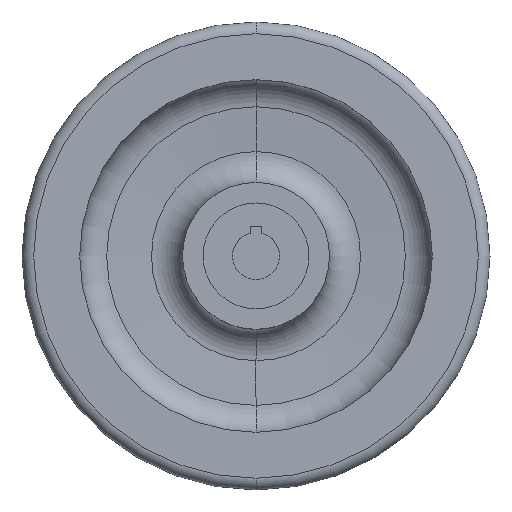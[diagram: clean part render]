
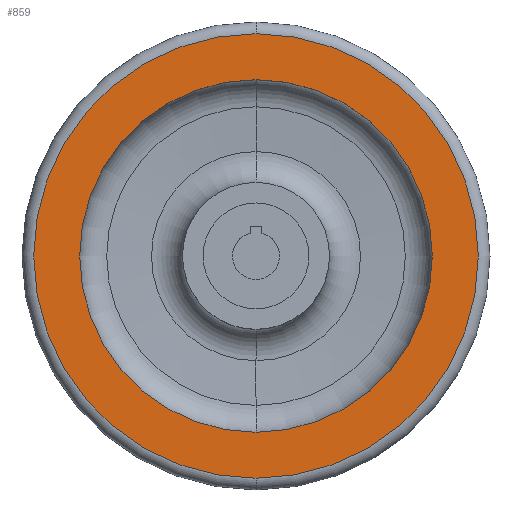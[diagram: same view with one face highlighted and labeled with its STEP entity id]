
A CAD part, top view. The second image highlights one B-rep face of the part: STEP entity #859.
In plain terms, the highlighted planar face has unit normal (0, 0, 1).
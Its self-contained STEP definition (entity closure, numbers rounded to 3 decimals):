
#28 = CARTESIAN_POINT ( 'NONE',  ( 0., 0., -9. ) ) ;
#111 = AXIS2_PLACEMENT_3D ( 'NONE', #785, #706, #622 ) ;
#119 = DIRECTION ( 'NONE',  ( 0., -1., 0. ) ) ;
#125 = VERTEX_POINT ( 'NONE', #636 ) ;
#189 = AXIS2_PLACEMENT_3D ( 'NONE', #28, #964, #285 ) ;
#194 = DIRECTION ( 'NONE',  ( 0., 0., -1. ) ) ;
#210 = ORIENTED_EDGE ( 'NONE', *, *, #1059, .F. ) ;
#243 = CIRCLE ( 'NONE', #189, 30. ) ;
#251 = VERTEX_POINT ( 'NONE', #820 ) ;
#273 = EDGE_LOOP ( 'NONE', ( #758, #210 ) ) ;
#285 = DIRECTION ( 'NONE',  ( 0., -1., 0. ) ) ;
#295 = CARTESIAN_POINT ( 'NONE',  ( 0., 30., -9. ) ) ;
#304 = AXIS2_PLACEMENT_3D ( 'NONE', #844, #1109, #582 ) ;
#306 = CIRCLE ( 'NONE', #963, 30. ) ;
#375 = AXIS2_PLACEMENT_3D ( 'NONE', #295, #194, #461 ) ;
#401 = VERTEX_POINT ( 'NONE', #847 ) ;
#453 = VERTEX_POINT ( 'NONE', #1041 ) ;
#461 = DIRECTION ( 'NONE',  ( 0., 1., 0. ) ) ;
#553 = FACE_OUTER_BOUND ( 'NONE', #583, .T. ) ;
#582 = DIRECTION ( 'NONE',  ( 0., -1., 0. ) ) ;
#583 = EDGE_LOOP ( 'NONE', ( #1066, #615 ) ) ;
#604 = CIRCLE ( 'NONE', #111, 37.817 ) ;
#615 = ORIENTED_EDGE ( 'NONE', *, *, #881, .T. ) ;
#622 = DIRECTION ( 'NONE',  ( 0., -1., 0. ) ) ;
#636 = CARTESIAN_POINT ( 'NONE',  ( 0., -30., -9. ) ) ;
#706 = DIRECTION ( 'NONE',  ( 0., 0., 1. ) ) ;
#742 = EDGE_CURVE ( 'NONE', #453, #251, #799, .T. ) ;
#758 = ORIENTED_EDGE ( 'NONE', *, *, #780, .F. ) ;
#780 = EDGE_CURVE ( 'NONE', #125, #401, #243, .T. ) ;
#785 = CARTESIAN_POINT ( 'NONE',  ( 0., 0., -9. ) ) ;
#799 = CIRCLE ( 'NONE', #304, 37.817 ) ;
#820 = CARTESIAN_POINT ( 'NONE',  ( 0., 37.817, -9. ) ) ;
#844 = CARTESIAN_POINT ( 'NONE',  ( 0., 0., -9. ) ) ;
#847 = CARTESIAN_POINT ( 'NONE',  ( 0., 30., -9. ) ) ;
#859 = ADVANCED_FACE ( 'NONE', ( #887, #553 ), #1057, .F. ) ;
#881 = EDGE_CURVE ( 'NONE', #251, #453, #604, .T. ) ;
#887 = FACE_BOUND ( 'NONE', #273, .T. ) ;
#896 = DIRECTION ( 'NONE',  ( 0., 0., 1. ) ) ;
#963 = AXIS2_PLACEMENT_3D ( 'NONE', #1086, #896, #119 ) ;
#964 = DIRECTION ( 'NONE',  ( 0., 0., 1. ) ) ;
#1041 = CARTESIAN_POINT ( 'NONE',  ( 0., -37.817, -9. ) ) ;
#1057 = PLANE ( 'NONE',  #375 ) ;
#1059 = EDGE_CURVE ( 'NONE', #401, #125, #306, .T. ) ;
#1066 = ORIENTED_EDGE ( 'NONE', *, *, #742, .T. ) ;
#1086 = CARTESIAN_POINT ( 'NONE',  ( 0., 0., -9. ) ) ;
#1109 = DIRECTION ( 'NONE',  ( 0., 0., 1. ) ) ;
